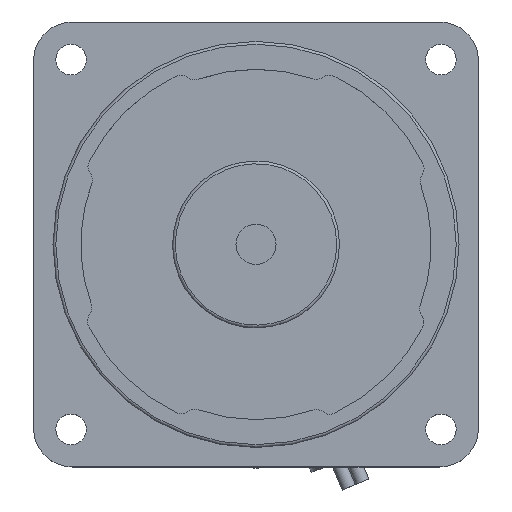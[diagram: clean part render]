
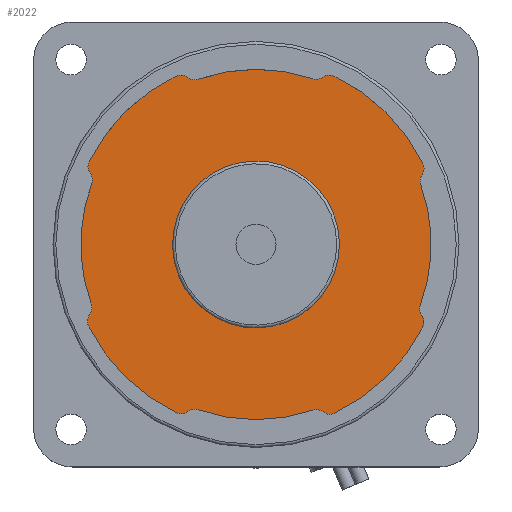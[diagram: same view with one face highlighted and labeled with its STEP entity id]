
A CAD part, top view. The second image highlights one B-rep face of the part: STEP entity #2022.
In plain terms, the highlighted planar face has unit normal (0, 0, 1).
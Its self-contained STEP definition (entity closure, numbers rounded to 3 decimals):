
#1049=CARTESIAN_POINT('',(5.498,-13.956,2.0));
#1050=VERTEX_POINT('',#1049);
#1051=CARTESIAN_POINT('',(0.0,0.0,2.));
#1052=DIRECTION('',(0.0,0.0,1.0));
#1053=DIRECTION('',(1.0,0.0,0.0));
#1054=AXIS2_PLACEMENT_3D('',#1051,#1052,#1053);
#1055=CIRCLE('',#1054,15.0);
#1056=EDGE_CURVE('',#1050,#1050,#1055,.T.);
#1364=CARTESIAN_POINT('',(-30.013,14.882,2.));
#1365=VERTEX_POINT('',#1364);
#1366=CARTESIAN_POINT('',(-29.824,12.797,2.));
#1367=VERTEX_POINT('',#1366);
#1368=CARTESIAN_POINT('',(-28.221,13.993,2.));
#1369=DIRECTION('',(0.0,0.0,1.0));
#1370=DIRECTION('',(0.896,-0.444,0.0));
#1371=AXIS2_PLACEMENT_3D('',#1368,#1369,#1370);
#1372=CIRCLE('',#1371,2.);
#1373=EDGE_CURVE('',#1365,#1367,#1372,.T.);
#1396=CARTESIAN_POINT('',(-29.551,10.908,2.));
#1397=VERTEX_POINT('',#1396);
#1398=CARTESIAN_POINT('',(-31.427,11.601,2.));
#1399=DIRECTION('',(0.0,0.0,-1.0));
#1400=DIRECTION('',(0.938,-0.346,0.0));
#1401=AXIS2_PLACEMENT_3D('',#1398,#1399,#1400);
#1402=CIRCLE('',#1401,2.0);
#1403=EDGE_CURVE('',#1367,#1397,#1402,.T.);
#1421=CARTESIAN_POINT('',(-29.624,-10.708,2.));
#1422=VERTEX_POINT('',#1421);
#1423=CARTESIAN_POINT('',(0.0,0.0,2.));
#1424=DIRECTION('',(0.0,0.0,1.0));
#1425=DIRECTION('',(0.938,-0.346,0.0));
#1426=AXIS2_PLACEMENT_3D('',#1423,#1424,#1425);
#1427=CIRCLE('',#1426,31.5);
#1428=EDGE_CURVE('',#1397,#1422,#1427,.T.);
#1446=CARTESIAN_POINT('',(-29.902,-12.584,2.));
#1447=VERTEX_POINT('',#1446);
#1448=CARTESIAN_POINT('',(-31.505,-11.388,2.));
#1449=DIRECTION('',(0.0,0.0,-1.0));
#1450=DIRECTION('',(0.801,-0.598,0.0));
#1451=AXIS2_PLACEMENT_3D('',#1448,#1449,#1450);
#1452=CIRCLE('',#1451,2.0);
#1453=EDGE_CURVE('',#1422,#1447,#1452,.T.);
#1471=CARTESIAN_POINT('',(-30.097,-14.656,2.));
#1472=VERTEX_POINT('',#1471);
#1473=CARTESIAN_POINT('',(-28.299,-13.78,2.));
#1474=DIRECTION('',(0.0,0.0,1.0));
#1475=DIRECTION('',(0.801,-0.598,0.0));
#1476=AXIS2_PLACEMENT_3D('',#1473,#1474,#1475);
#1477=CIRCLE('',#1476,2.);
#1478=EDGE_CURVE('',#1447,#1472,#1477,.T.);
#1496=CARTESIAN_POINT('',(-14.331,-30.253,2.));
#1497=VERTEX_POINT('',#1496);
#1498=CARTESIAN_POINT('',(0.0,0.0,2.));
#1499=DIRECTION('',(0.0,0.0,1.0));
#1500=DIRECTION('',(0.899,0.438,0.0));
#1501=AXIS2_PLACEMENT_3D('',#1498,#1499,#1500);
#1502=CIRCLE('',#1501,33.476);
#1503=EDGE_CURVE('',#1472,#1497,#1502,.T.);
#1521=CARTESIAN_POINT('',(-12.262,-30.036,2.));
#1522=VERTEX_POINT('',#1521);
#1523=CARTESIAN_POINT('',(-13.475,-28.446,2.));
#1524=DIRECTION('',(0.0,0.0,1.0));
#1525=DIRECTION('',(0.428,0.904,0.0));
#1526=AXIS2_PLACEMENT_3D('',#1523,#1524,#1525);
#1527=CIRCLE('',#1526,2.0);
#1528=EDGE_CURVE('',#1497,#1522,#1527,.T.);
#1546=CARTESIAN_POINT('',(-10.389,-29.738,2.));
#1547=VERTEX_POINT('',#1546);
#1548=CARTESIAN_POINT('',(-11.048,-31.626,2.));
#1549=DIRECTION('',(0.0,0.0,-1.0));
#1550=DIRECTION('',(0.33,0.944,0.0));
#1551=AXIS2_PLACEMENT_3D('',#1548,#1549,#1550);
#1552=CIRCLE('',#1551,2.);
#1553=EDGE_CURVE('',#1522,#1547,#1552,.T.);
#1571=CARTESIAN_POINT('',(10.189,-29.807,2.));
#1572=VERTEX_POINT('',#1571);
#1573=CARTESIAN_POINT('',(0.0,0.0,2.));
#1574=DIRECTION('',(0.0,0.0,1.0));
#1575=DIRECTION('',(0.33,0.944,0.0));
#1576=AXIS2_PLACEMENT_3D('',#1573,#1574,#1575);
#1577=CIRCLE('',#1576,31.5);
#1578=EDGE_CURVE('',#1547,#1572,#1577,.T.);
#1596=CARTESIAN_POINT('',(12.049,-30.109,2.));
#1597=VERTEX_POINT('',#1596);
#1598=CARTESIAN_POINT('',(10.836,-31.699,2.));
#1599=DIRECTION('',(0.0,0.0,-1.0));
#1600=DIRECTION('',(0.607,0.795,0.0));
#1601=AXIS2_PLACEMENT_3D('',#1598,#1599,#1600);
#1602=CIRCLE('',#1601,2.0);
#1603=EDGE_CURVE('',#1572,#1597,#1602,.T.);
#1621=CARTESIAN_POINT('',(14.106,-30.332,2.));
#1622=VERTEX_POINT('',#1621);
#1623=CARTESIAN_POINT('',(13.263,-28.519,2.));
#1624=DIRECTION('',(0.0,0.0,1.0));
#1625=DIRECTION('',(0.607,0.795,0.0));
#1626=AXIS2_PLACEMENT_3D('',#1623,#1624,#1625);
#1627=CIRCLE('',#1626,2.);
#1628=EDGE_CURVE('',#1597,#1622,#1627,.T.);
#1646=CARTESIAN_POINT('',(29.984,-14.832,2.));
#1647=VERTEX_POINT('',#1646);
#1648=CARTESIAN_POINT('',(0.0,0.0,2.));
#1649=DIRECTION('',(0.0,0.0,1.0));
#1650=DIRECTION('',(-0.422,0.907,0.0));
#1651=AXIS2_PLACEMENT_3D('',#1648,#1649,#1650);
#1652=CIRCLE('',#1651,33.452);
#1653=EDGE_CURVE('',#1622,#1647,#1652,.T.);
#1671=CARTESIAN_POINT('',(29.81,-12.771,2.));
#1672=VERTEX_POINT('',#1671);
#1673=CARTESIAN_POINT('',(28.191,-13.945,2.));
#1674=DIRECTION('',(0.0,0.0,1.0));
#1675=DIRECTION('',(-0.896,0.443,0.0));
#1676=AXIS2_PLACEMENT_3D('',#1673,#1674,#1675);
#1677=CIRCLE('',#1676,2.);
#1678=EDGE_CURVE('',#1647,#1672,#1677,.T.);
#1696=CARTESIAN_POINT('',(29.553,-10.904,2.));
#1697=VERTEX_POINT('',#1696);
#1698=CARTESIAN_POINT('',(31.429,-11.596,2.));
#1699=DIRECTION('',(0.0,0.0,-1.0));
#1700=DIRECTION('',(-0.938,0.346,0.0));
#1701=AXIS2_PLACEMENT_3D('',#1698,#1699,#1700);
#1702=CIRCLE('',#1701,2.0);
#1703=EDGE_CURVE('',#1672,#1697,#1702,.T.);
#1721=CARTESIAN_POINT('',(29.624,10.709,2.));
#1722=VERTEX_POINT('',#1721);
#1723=CARTESIAN_POINT('',(0.0,0.0,2.));
#1724=DIRECTION('',(0.0,0.0,1.0));
#1725=DIRECTION('',(-0.938,0.346,0.0));
#1726=AXIS2_PLACEMENT_3D('',#1723,#1724,#1725);
#1727=CIRCLE('',#1726,31.5);
#1728=EDGE_CURVE('',#1697,#1722,#1727,.T.);
#1746=CARTESIAN_POINT('',(29.862,12.531,2.));
#1747=VERTEX_POINT('',#1746);
#1748=CARTESIAN_POINT('',(31.505,11.389,2.));
#1749=DIRECTION('',(0.0,0.0,-1.0));
#1750=DIRECTION('',(-0.821,0.571,0.0));
#1751=AXIS2_PLACEMENT_3D('',#1748,#1749,#1750);
#1752=CIRCLE('',#1751,2.);
#1753=EDGE_CURVE('',#1722,#1747,#1752,.T.);
#1771=CARTESIAN_POINT('',(30.02,14.544,2.));
#1772=VERTEX_POINT('',#1771);
#1773=CARTESIAN_POINT('',(28.22,13.672,2.));
#1774=DIRECTION('',(0.0,0.0,1.0));
#1775=DIRECTION('',(-0.821,0.571,0.0));
#1776=AXIS2_PLACEMENT_3D('',#1773,#1774,#1775);
#1777=CIRCLE('',#1776,2.);
#1778=EDGE_CURVE('',#1747,#1772,#1777,.T.);
#1796=CARTESIAN_POINT('',(14.017,30.27,2.));
#1797=VERTEX_POINT('',#1796);
#1798=CARTESIAN_POINT('',(0.0,0.0,2.));
#1799=DIRECTION('',(0.0,0.0,1.0));
#1800=DIRECTION('',(-0.9,-0.436,0.0));
#1801=AXIS2_PLACEMENT_3D('',#1798,#1799,#1800);
#1802=CIRCLE('',#1801,33.358);
#1803=EDGE_CURVE('',#1772,#1797,#1802,.T.);
#1821=CARTESIAN_POINT('',(12.006,30.077,2.));
#1822=VERTEX_POINT('',#1821);
#1823=CARTESIAN_POINT('',(13.176,28.455,2.));
#1824=DIRECTION('',(0.0,0.0,1.0));
#1825=DIRECTION('',(-0.42,-0.907,0.0));
#1826=AXIS2_PLACEMENT_3D('',#1823,#1824,#1825);
#1827=CIRCLE('',#1826,2.);
#1828=EDGE_CURVE('',#1797,#1822,#1827,.T.);
#1846=CARTESIAN_POINT('',(10.189,29.807,2.));
#1847=VERTEX_POINT('',#1846);
#1848=CARTESIAN_POINT('',(10.836,31.699,2.));
#1849=DIRECTION('',(0.0,0.0,-1.0));
#1850=DIRECTION('',(-0.323,-0.946,0.0));
#1851=AXIS2_PLACEMENT_3D('',#1848,#1849,#1850);
#1852=CIRCLE('',#1851,2.);
#1853=EDGE_CURVE('',#1822,#1847,#1852,.T.);
#1871=CARTESIAN_POINT('',(-10.398,29.734,2.));
#1872=VERTEX_POINT('',#1871);
#1873=CARTESIAN_POINT('',(0.0,0.0,2.));
#1874=DIRECTION('',(0.0,0.0,1.0));
#1875=DIRECTION('',(-0.323,-0.946,0.0));
#1876=AXIS2_PLACEMENT_3D('',#1873,#1874,#1875);
#1877=CIRCLE('',#1876,31.5);
#1878=EDGE_CURVE('',#1847,#1872,#1877,.T.);
#1896=CARTESIAN_POINT('',(-12.282,30.04,2.));
#1897=VERTEX_POINT('',#1896);
#1898=CARTESIAN_POINT('',(-11.058,31.622,2.));
#1899=DIRECTION('',(0.0,0.0,-1.0));
#1900=DIRECTION('',(-0.612,-0.791,0.0));
#1901=AXIS2_PLACEMENT_3D('',#1898,#1899,#1900);
#1902=CIRCLE('',#1901,2.);
#1903=EDGE_CURVE('',#1872,#1897,#1902,.T.);
#1921=CARTESIAN_POINT('',(-14.363,30.265,2.));
#1922=VERTEX_POINT('',#1921);
#1923=CARTESIAN_POINT('',(-13.505,28.458,2.));
#1924=DIRECTION('',(0.0,0.0,1.0));
#1925=DIRECTION('',(-0.612,-0.791,0.0));
#1926=AXIS2_PLACEMENT_3D('',#1923,#1924,#1925);
#1927=CIRCLE('',#1926,2.);
#1928=EDGE_CURVE('',#1897,#1922,#1927,.T.);
#1946=CARTESIAN_POINT('',(0.0,0.0,2.));
#1947=DIRECTION('',(0.0,0.0,1.0));
#1948=DIRECTION('',(0.429,-0.903,0.0));
#1949=AXIS2_PLACEMENT_3D('',#1946,#1947,#1948);
#1950=CIRCLE('',#1949,33.5);
#1951=EDGE_CURVE('',#1922,#1365,#1950,.T.);
#1988=CARTESIAN_POINT('',(-0.045,-0.02,2.));
#1989=DIRECTION('',(0.0,0.0,1.0));
#1990=DIRECTION('',(1.0,0.0,0.0));
#1991=AXIS2_PLACEMENT_3D('',#1988,#1989,#1990);
#1992=PLANE('',#1991);
#1993=ORIENTED_EDGE('',*,*,#1951,.T.);
#1994=ORIENTED_EDGE('',*,*,#1373,.T.);
#1995=ORIENTED_EDGE('',*,*,#1403,.T.);
#1996=ORIENTED_EDGE('',*,*,#1428,.T.);
#1997=ORIENTED_EDGE('',*,*,#1453,.T.);
#1998=ORIENTED_EDGE('',*,*,#1478,.T.);
#1999=ORIENTED_EDGE('',*,*,#1503,.T.);
#2000=ORIENTED_EDGE('',*,*,#1528,.T.);
#2001=ORIENTED_EDGE('',*,*,#1553,.T.);
#2002=ORIENTED_EDGE('',*,*,#1578,.T.);
#2003=ORIENTED_EDGE('',*,*,#1603,.T.);
#2004=ORIENTED_EDGE('',*,*,#1628,.T.);
#2005=ORIENTED_EDGE('',*,*,#1653,.T.);
#2006=ORIENTED_EDGE('',*,*,#1678,.T.);
#2007=ORIENTED_EDGE('',*,*,#1703,.T.);
#2008=ORIENTED_EDGE('',*,*,#1728,.T.);
#2009=ORIENTED_EDGE('',*,*,#1753,.T.);
#2010=ORIENTED_EDGE('',*,*,#1778,.T.);
#2011=ORIENTED_EDGE('',*,*,#1803,.T.);
#2012=ORIENTED_EDGE('',*,*,#1828,.T.);
#2013=ORIENTED_EDGE('',*,*,#1853,.T.);
#2014=ORIENTED_EDGE('',*,*,#1878,.T.);
#2015=ORIENTED_EDGE('',*,*,#1903,.T.);
#2016=ORIENTED_EDGE('',*,*,#1928,.T.);
#2017=EDGE_LOOP('',(#1993,#1994,#1995,#1996,#1997,#1998,#1999,#2000,#2001,#2002,#2003,#2004,#2005,#2006,#2007,#2008,#2009,#2010,#2011,#2012,#2013,#2014,#2015,#2016));
#2018=FACE_OUTER_BOUND('',#2017,.T.);
#2019=ORIENTED_EDGE('',*,*,#1056,.F.);
#2020=EDGE_LOOP('',(#2019));
#2021=FACE_BOUND('',#2020,.T.);
#2022=ADVANCED_FACE('',(#2018,#2021),#1992,.T.);
